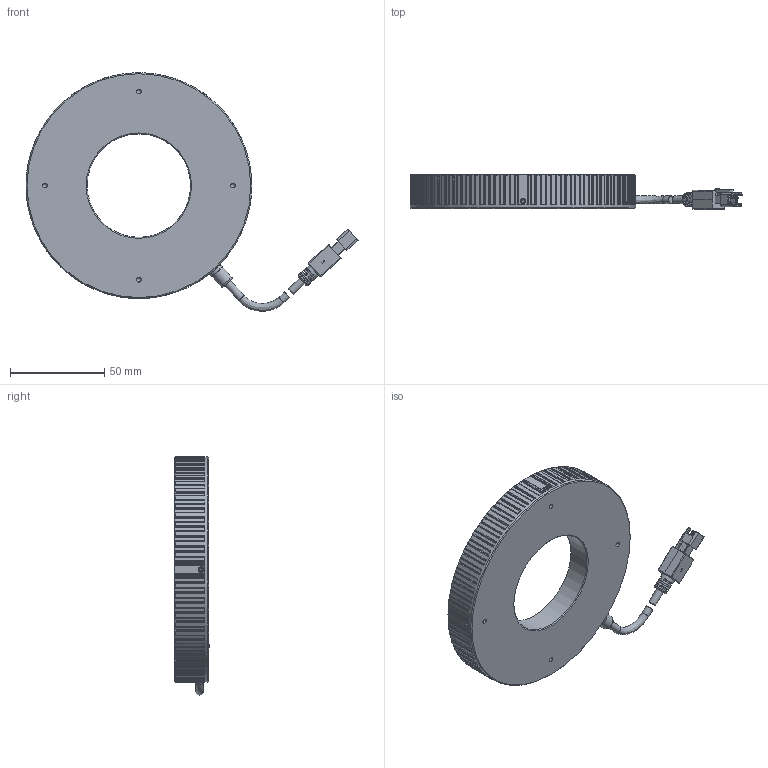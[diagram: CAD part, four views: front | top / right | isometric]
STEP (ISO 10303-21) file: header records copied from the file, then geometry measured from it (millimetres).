
FILE_DESCRIPTION (( 'STEP AP203' ), '1' );
FILE_NAME ('OPT-IRI12000-IR-V1.0.STEP', '2025-02-15T01:25:53', ( '' ), ( '' ), 'SwSTEP 2.0', 'SolidWorks 2016', '' );
FILE_SCHEMA (( 'CONFIG_CONTROL_DESIGN' ));
Length unit declared in the file: millimetre
Products named in the file (1): OPT-IRI12000-IR-V1.0
Bounding box: 176.5 x 18.35 x 126.76 mm (x, y, z)
Volume: 110232 mm3; surface area: 36753.6 mm2
Topology: 8 solids, 8 shells, 981 faces, 2699 edges, 1744 vertices
Faces by surface type: plane 459, cylinder 395, cone 98, bspline 19, torus 6, sphere 4
Full cylindrical faces by diameter (mm): 1.1 x4, 1.4 x4, 1.6 x4, 2 x4, 2.2 x4, 2.5 x4, 3.5 x1, 4.1 x4, 5.8 x1, 7.5 x2, 8 x1, 55 x1, 57.8 x1, 112 x1, 120 x1
Entity records: 32975 total; most frequent: CARTESIAN_POINT 9164, ORIENTED_EDGE 5182, DIRECTION 4604, EDGE_CURVE 2591, VERTEX_POINT 1714, AXIS2_PLACEMENT_3D 1670, LINE 1264, VECTOR 1264
